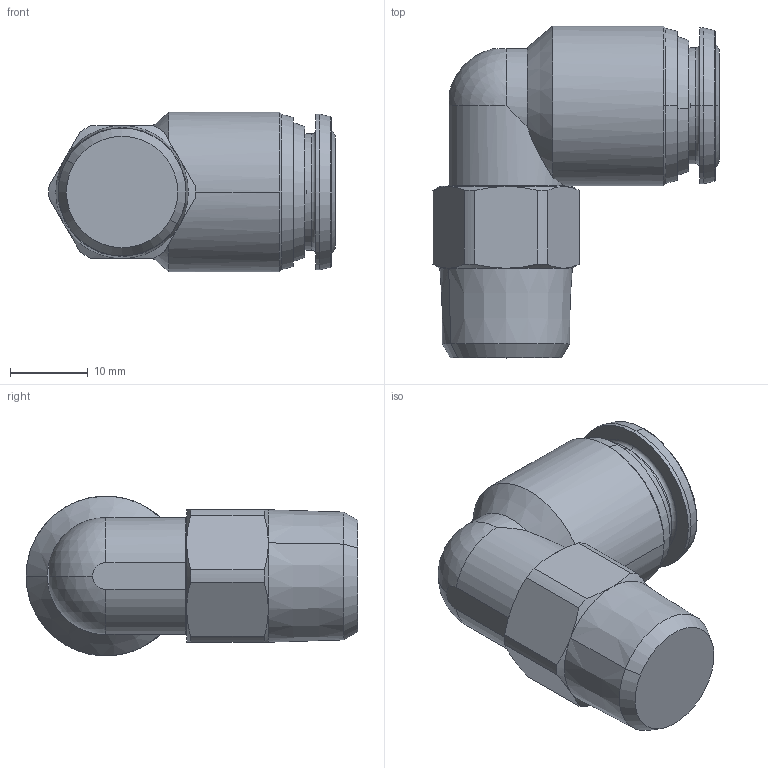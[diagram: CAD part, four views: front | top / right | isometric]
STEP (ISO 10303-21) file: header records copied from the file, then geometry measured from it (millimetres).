
FILE_DESCRIPTION (( 'STEP AP214' ), '1' );
FILE_NAME ('60110X0010.STEP', '2024-04-17T07:20:27', ( '' ), ( '' ), 'SwSTEP 2.0', 'SolidWorks 2020', '' );
FILE_SCHEMA (( 'AUTOMOTIVE_DESIGN' ));
Length unit declared in the file: millimetre
Products named in the file (1): 60110X0010
Bounding box: 36.75 x 42.6 x 20.5 mm (x, y, z)
Volume: 11820.4 mm3; surface area: 5175.4 mm2
Topology: 1 solids, 3 shells, 116 faces, 287 edges, 181 vertices
Faces by surface type: cylinder 41, plane 39, cone 30, torus 4, sphere 2
Entity records: 3705 total; most frequent: CARTESIAN_POINT 917, DIRECTION 598, ORIENTED_EDGE 570, EDGE_CURVE 285, AXIS2_PLACEMENT_3D 245, VERTEX_POINT 181, CIRCLE 128, EDGE_LOOP 122
